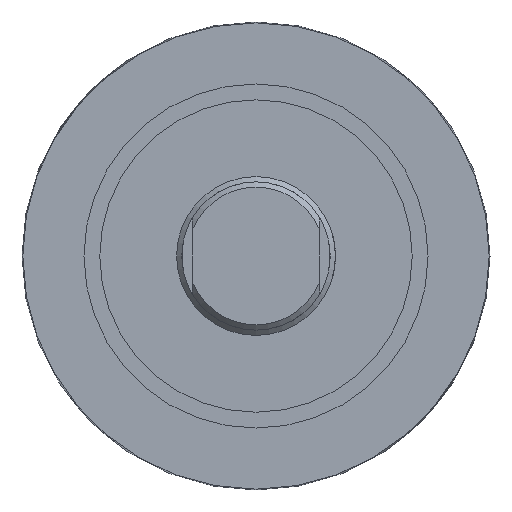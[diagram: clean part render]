
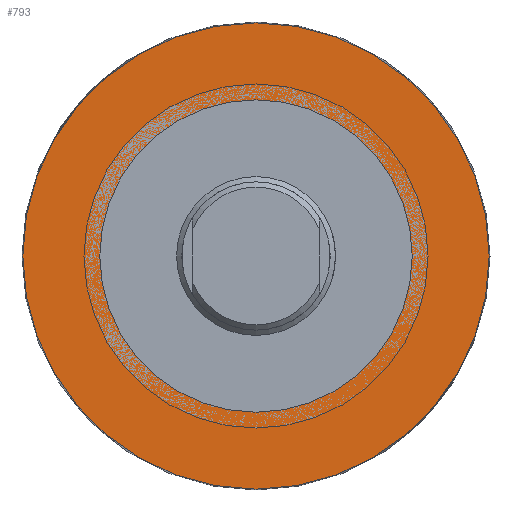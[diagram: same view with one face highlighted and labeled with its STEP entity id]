
A CAD part, left-side view. The second image highlights one B-rep face of the part: STEP entity #793.
In plain terms, the highlighted planar face has unit normal (-1, 0, 0).
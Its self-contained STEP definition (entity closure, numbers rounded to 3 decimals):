
#146=FACE_OUTER_BOUND('',#199,.T.);
#199=EDGE_LOOP('',(#585));
#258=CIRCLE('',#897,44.039);
#335=VERTEX_POINT('',#1415);
#427=EDGE_CURVE('',#335,#335,#258,.T.);
#585=ORIENTED_EDGE('',*,*,#427,.T.);
#699=PLANE('',#896);
#793=ADVANCED_FACE('',(#146),#699,.T.);
#896=AXIS2_PLACEMENT_3D('',#1414,#1083,#1084);
#897=AXIS2_PLACEMENT_3D('',#1416,#1085,#1086);
#1083=DIRECTION('center_axis',(-1.,0.,0.));
#1084=DIRECTION('ref_axis',(0.,0.,-1.));
#1085=DIRECTION('center_axis',(-1.,0.,0.));
#1086=DIRECTION('ref_axis',(0.,0.,1.));
#1414=CARTESIAN_POINT('Origin',(76.7,-38.27,0.));
#1415=CARTESIAN_POINT('',(76.7,0.,-44.039));
#1416=CARTESIAN_POINT('Origin',(76.7,0.,0.));
